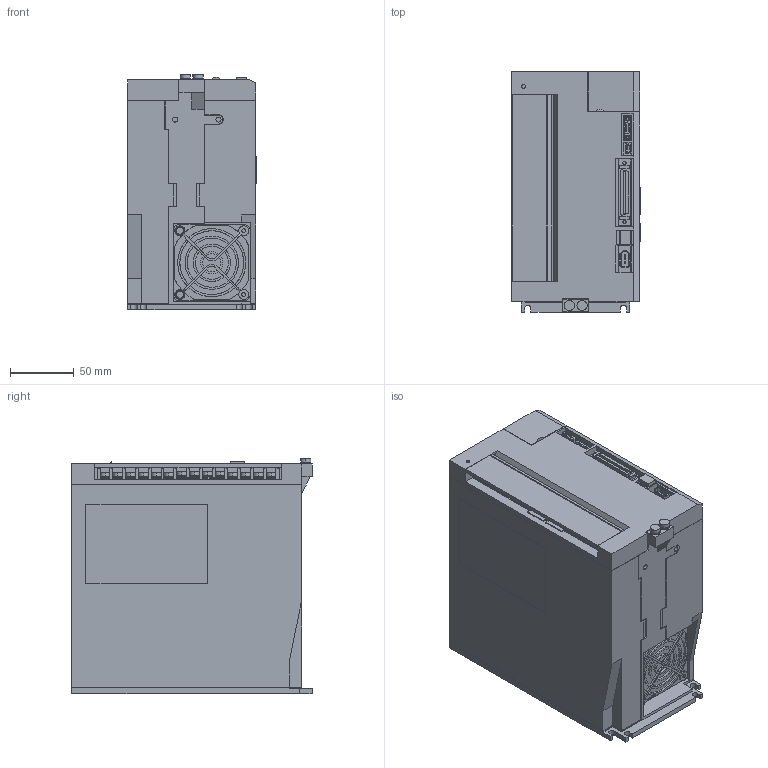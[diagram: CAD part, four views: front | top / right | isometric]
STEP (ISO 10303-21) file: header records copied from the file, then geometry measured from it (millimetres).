
FILE_DESCRIPTION (( 'STEP AP203' ), '1' );
FILE_NAME ('sgd7s_200a00a.STEP', '2015-09-18T08:25:19', ( '匠エンジニアリング山之内' ), ( 'TAKUMI-Engniaring' ), 'SwSTEP 2.0', 'SolidWorks 2006303', '' );
FILE_SCHEMA (( 'CONFIG_CONTROL_DESIGN' ));
Length unit declared in the file: millimetre
Products named in the file (7): sgd7s_200a00a_cover3; sgd7s_200a00a_terminal; sgd7s_200a00a; sgd7s_200a00a_base; sgd7s_200a00a_cover; sgd7s_200a00a_cover2; sgd7s_200a00a_connector
Assembly tree (8 placements, depth 2):
  sgd7s_200a00a
    sgd7s_200a00a_cover2  x2
    sgd7s_200a00a_cover
    sgd7s_200a00a_base
    sgd7s_200a00a_cover3
    sgd7s_200a00a_terminal  x2
    sgd7s_200a00a_connector
Bounding box: 100.5 x 188 x 184.6 mm (x, y, z)
Volume: 3110995.7 mm3; surface area: 198055.2 mm2
Topology: 8 solids, 8 shells, 1858 faces, 4880 edges, 3202 vertices
Faces by surface type: plane 1485, cylinder 368, cone 4, sphere 1
Entity records: 56373 total; most frequent: CARTESIAN_POINT 9742, ORIENTED_EDGE 9556, DIRECTION 9306, EDGE_CURVE 4778, LINE 3910, VECTOR 3910, VERTEX_POINT 3134, AXIS2_PLACEMENT_3D 2698
